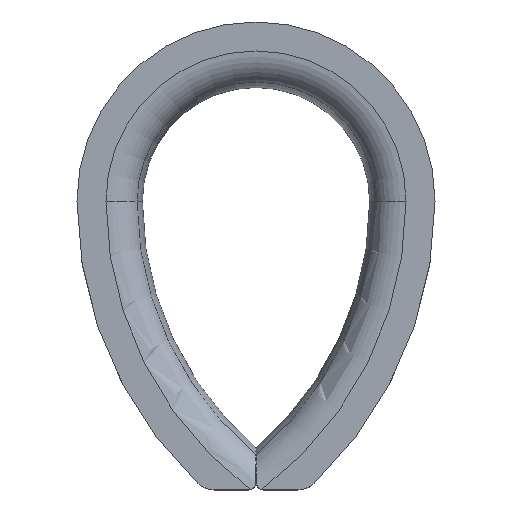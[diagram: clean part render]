
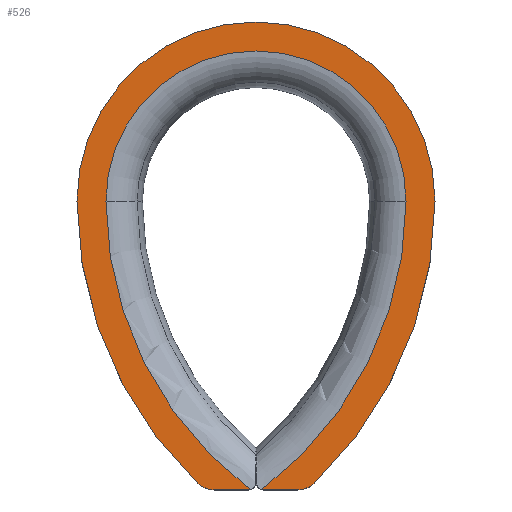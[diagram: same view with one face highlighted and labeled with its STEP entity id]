
A CAD part, top view. The second image highlights one B-rep face of the part: STEP entity #526.
In plain terms, the highlighted planar face has unit normal (0, 0, 1).
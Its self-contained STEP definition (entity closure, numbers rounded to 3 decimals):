
#27=LINE('',#913,#49);
#28=LINE('',#925,#50);
#49=VECTOR('',#675,10.);
#50=VECTOR('',#686,10.);
#71=PLANE('',#586);
#82=FACE_OUTER_BOUND('',#114,.T.);
#114=EDGE_LOOP('',(#357,#358,#359,#360,#361,#362,#363,#364,#365,#366,#367,
#368));
#143=CIRCLE('',#576,151.138);
#148=CIRCLE('',#582,62.856);
#150=CIRCLE('',#585,151.138);
#151=CIRCLE('',#587,3.);
#152=CIRCLE('',#588,10.);
#153=CIRCLE('',#589,163.283);
#154=CIRCLE('',#590,75.);
#155=CIRCLE('',#591,163.283);
#156=CIRCLE('',#592,10.);
#157=CIRCLE('',#593,3.);
#206=VERTEX_POINT('',#818);
#207=VERTEX_POINT('',#843);
#210=VERTEX_POINT('',#862);
#214=VERTEX_POINT('',#883);
#215=VERTEX_POINT('',#910);
#216=VERTEX_POINT('',#912);
#217=VERTEX_POINT('',#914);
#218=VERTEX_POINT('',#916);
#219=VERTEX_POINT('',#918);
#220=VERTEX_POINT('',#920);
#221=VERTEX_POINT('',#922);
#222=VERTEX_POINT('',#924);
#260=EDGE_CURVE('',#206,#207,#143,.T.);
#266=EDGE_CURVE('',#207,#210,#148,.T.);
#269=EDGE_CURVE('',#210,#214,#150,.T.);
#271=EDGE_CURVE('',#215,#206,#151,.T.);
#272=EDGE_CURVE('',#215,#216,#27,.T.);
#273=EDGE_CURVE('',#217,#216,#152,.T.);
#274=EDGE_CURVE('',#217,#218,#153,.T.);
#275=EDGE_CURVE('',#218,#219,#154,.T.);
#276=EDGE_CURVE('',#219,#220,#155,.T.);
#277=EDGE_CURVE('',#221,#220,#156,.T.);
#278=EDGE_CURVE('',#221,#222,#28,.T.);
#279=EDGE_CURVE('',#214,#222,#157,.T.);
#357=ORIENTED_EDGE('',*,*,#269,.F.);
#358=ORIENTED_EDGE('',*,*,#266,.F.);
#359=ORIENTED_EDGE('',*,*,#260,.F.);
#360=ORIENTED_EDGE('',*,*,#271,.F.);
#361=ORIENTED_EDGE('',*,*,#272,.T.);
#362=ORIENTED_EDGE('',*,*,#273,.F.);
#363=ORIENTED_EDGE('',*,*,#274,.T.);
#364=ORIENTED_EDGE('',*,*,#275,.T.);
#365=ORIENTED_EDGE('',*,*,#276,.T.);
#366=ORIENTED_EDGE('',*,*,#277,.F.);
#367=ORIENTED_EDGE('',*,*,#278,.T.);
#368=ORIENTED_EDGE('',*,*,#279,.F.);
#526=ADVANCED_FACE('',(#82),#71,.T.);
#576=AXIS2_PLACEMENT_3D('',#844,#651,#652);
#582=AXIS2_PLACEMENT_3D('',#866,#663,#664);
#585=AXIS2_PLACEMENT_3D('',#884,#669,#670);
#586=AXIS2_PLACEMENT_3D('',#909,#671,#672);
#587=AXIS2_PLACEMENT_3D('',#911,#673,#674);
#588=AXIS2_PLACEMENT_3D('',#915,#676,#677);
#589=AXIS2_PLACEMENT_3D('',#917,#678,#679);
#590=AXIS2_PLACEMENT_3D('',#919,#680,#681);
#591=AXIS2_PLACEMENT_3D('',#921,#682,#683);
#592=AXIS2_PLACEMENT_3D('',#923,#684,#685);
#593=AXIS2_PLACEMENT_3D('',#926,#687,#688);
#651=DIRECTION('center_axis',(0.,0.,1.));
#652=DIRECTION('ref_axis',(0.899,-0.438,0.));
#663=DIRECTION('center_axis',(0.,0.,1.));
#664=DIRECTION('ref_axis',(0.,1.,0.));
#669=DIRECTION('center_axis',(0.,0.,1.));
#670=DIRECTION('ref_axis',(-0.899,-0.438,0.));
#671=DIRECTION('center_axis',(0.,0.,1.));
#672=DIRECTION('ref_axis',(0.589,0.808,0.));
#673=DIRECTION('center_axis',(0.,0.,-1.));
#674=DIRECTION('ref_axis',(-0.707,-0.707,0.));
#675=DIRECTION('',(1.,0.,0.));
#676=DIRECTION('center_axis',(0.,0.,-1.));
#677=DIRECTION('ref_axis',(0.371,-0.928,0.));
#678=DIRECTION('center_axis',(0.,0.,
1.));
#679=DIRECTION('ref_axis',(0.589,-0.808,0.));
#680=DIRECTION('center_axis',(0.,0.,
1.));
#681=DIRECTION('ref_axis',(1.,0.,0.));
#682=DIRECTION('center_axis',(0.,0.,1.));
#683=DIRECTION('ref_axis',(-1.,0.,0.));
#684=DIRECTION('center_axis',(0.,0.,-1.));
#685=DIRECTION('ref_axis',(-0.371,-0.928,0.));
#686=DIRECTION('',(1.,0.,0.));
#687=DIRECTION('center_axis',(0.,0.,-1.));
#688=DIRECTION('ref_axis',(0.707,-0.707,0.));
#818=CARTESIAN_POINT('',(2.394,-120.916,21.));
#843=CARTESIAN_POINT('',(62.856,0.,21.));
#844=CARTESIAN_POINT('Origin',(-88.283,0.,21.));
#862=CARTESIAN_POINT('',(-62.856,0.,21.));
#866=CARTESIAN_POINT('Origin',(0.,0.,21.));
#883=CARTESIAN_POINT('',(-2.394,-120.916,21.));
#884=CARTESIAN_POINT('Origin',(88.283,0.,21.));
#909=CARTESIAN_POINT('Origin',(55.119,0.,21.));
#910=CARTESIAN_POINT('',(3.1,-121.,21.));
#911=CARTESIAN_POINT('Origin',(3.1,-118.,21.));
#912=CARTESIAN_POINT('',(17.427,-121.,21.));
#913=CARTESIAN_POINT('',(16.883,-121.,21.));
#914=CARTESIAN_POINT('',(24.324,-118.242,21.));
#915=CARTESIAN_POINT('Origin',(17.427,-111.,21.));
#916=CARTESIAN_POINT('',(75.,0.,21.));
#917=CARTESIAN_POINT('Origin',(-88.283,0.,21.));
#918=CARTESIAN_POINT('',(-75.,0.,21.));
#919=CARTESIAN_POINT('Origin',(0.,0.,21.));
#920=CARTESIAN_POINT('',(-24.324,-118.242,21.));
#921=CARTESIAN_POINT('Origin',(88.283,0.,21.));
#922=CARTESIAN_POINT('',(-17.427,-121.,21.));
#923=CARTESIAN_POINT('Origin',(-17.427,-111.,21.));
#924=CARTESIAN_POINT('',(-3.1,-121.,21.));
#925=CARTESIAN_POINT('',(16.883,-121.,21.));
#926=CARTESIAN_POINT('Origin',(-3.1,-118.,21.));
